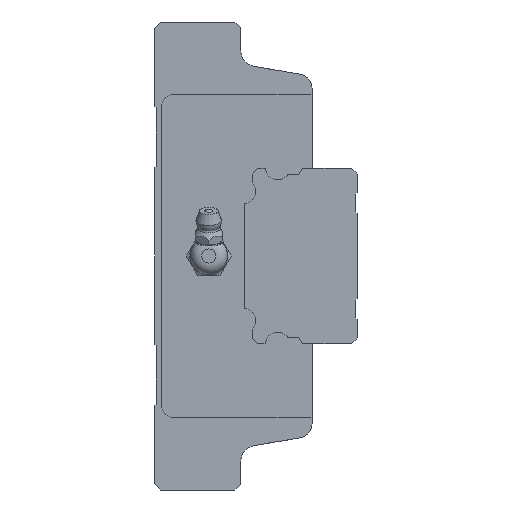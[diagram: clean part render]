
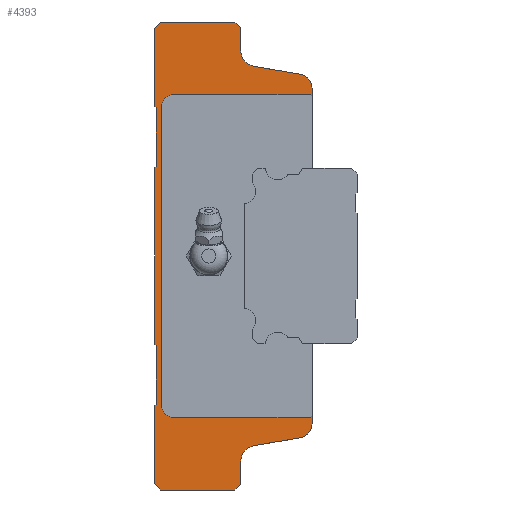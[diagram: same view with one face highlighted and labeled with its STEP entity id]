
A CAD part, left-side view. The second image highlights one B-rep face of the part: STEP entity #4393.
In plain terms, the highlighted planar face has unit normal (-1, 0, 0).
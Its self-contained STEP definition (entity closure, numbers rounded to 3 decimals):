
#198=CIRCLE('',#4711,4.);
#201=CIRCLE('',#4726,4.);
#219=CIRCLE('',#4753,4.);
#220=CIRCLE('',#4758,4.);
#273=CIRCLE('',#4839,3.);
#274=CIRCLE('',#4840,3.);
#1113=ORIENTED_EDGE('',*,*,#2110,.F.);
#1114=ORIENTED_EDGE('',*,*,#1935,.F.);
#1115=ORIENTED_EDGE('',*,*,#1930,.F.);
#1116=ORIENTED_EDGE('',*,*,#2053,.F.);
#1117=ORIENTED_EDGE('',*,*,#1923,.T.);
#1118=ORIENTED_EDGE('',*,*,#1838,.F.);
#1119=ORIENTED_EDGE('',*,*,#1835,.F.);
#1120=ORIENTED_EDGE('',*,*,#2043,.F.);
#1121=ORIENTED_EDGE('',*,*,#2031,.F.);
#1122=ORIENTED_EDGE('',*,*,#2101,.F.);
#1123=ORIENTED_EDGE('',*,*,#2098,.F.);
#1124=ORIENTED_EDGE('',*,*,#2095,.F.);
#1125=ORIENTED_EDGE('',*,*,#2092,.F.);
#1126=ORIENTED_EDGE('',*,*,#2089,.F.);
#1127=ORIENTED_EDGE('',*,*,#2086,.F.);
#1128=ORIENTED_EDGE('',*,*,#2083,.F.);
#1129=ORIENTED_EDGE('',*,*,#2080,.F.);
#1130=ORIENTED_EDGE('',*,*,#2077,.F.);
#1131=ORIENTED_EDGE('',*,*,#2074,.F.);
#1132=ORIENTED_EDGE('',*,*,#2067,.F.);
#1133=ORIENTED_EDGE('',*,*,#1824,.F.);
#1134=ORIENTED_EDGE('',*,*,#1821,.F.);
#1135=ORIENTED_EDGE('',*,*,#1897,.T.);
#1136=ORIENTED_EDGE('',*,*,#1888,.F.);
#1137=ORIENTED_EDGE('',*,*,#1873,.F.);
#1138=ORIENTED_EDGE('',*,*,#1951,.F.);
#1139=ORIENTED_EDGE('',*,*,#2111,.F.);
#1140=ORIENTED_EDGE('',*,*,#2112,.F.);
#1141=ORIENTED_EDGE('',*,*,#2113,.F.);
#1142=ORIENTED_EDGE('',*,*,#2114,.F.);
#1143=ORIENTED_EDGE('',*,*,#2115,.F.);
#1144=ORIENTED_EDGE('',*,*,#2116,.F.);
#1821=EDGE_CURVE('',#2397,#2395,#2822,.T.);
#1824=EDGE_CURVE('',#2395,#2399,#2825,.T.);
#1835=EDGE_CURVE('',#2409,#2407,#2836,.T.);
#1838=EDGE_CURVE('',#2407,#2411,#2839,.T.);
#1873=EDGE_CURVE('',#2440,#2438,#198,.T.);
#1888=EDGE_CURVE('',#2438,#2454,#2860,.T.);
#1897=EDGE_CURVE('',#2397,#2454,#201,.T.);
#1923=EDGE_CURVE('',#2481,#2411,#219,.T.);
#1930=EDGE_CURVE('',#2485,#2483,#220,.T.);
#1935=EDGE_CURVE('',#2483,#2488,#2868,.T.);
#1951=EDGE_CURVE('',#2499,#2440,#2881,.T.);
#2031=EDGE_CURVE('',#2574,#2575,#2918,.T.);
#2043=EDGE_CURVE('',#2575,#2409,#2930,.T.);
#2053=EDGE_CURVE('',#2481,#2485,#2939,.T.);
#2067=EDGE_CURVE('',#2399,#2596,#2952,.T.);
#2074=EDGE_CURVE('',#2596,#2600,#2959,.T.);
#2077=EDGE_CURVE('',#2600,#2602,#2962,.T.);
#2080=EDGE_CURVE('',#2602,#2604,#2965,.T.);
#2083=EDGE_CURVE('',#2604,#2606,#2968,.T.);
#2086=EDGE_CURVE('',#2606,#2608,#2971,.T.);
#2089=EDGE_CURVE('',#2608,#2610,#2974,.T.);
#2092=EDGE_CURVE('',#2610,#2612,#2977,.T.);
#2095=EDGE_CURVE('',#2612,#2614,#2980,.T.);
#2098=EDGE_CURVE('',#2614,#2616,#2983,.T.);
#2101=EDGE_CURVE('',#2616,#2574,#2986,.T.);
#2110=EDGE_CURVE('',#2488,#2624,#2993,.T.);
#2111=EDGE_CURVE('',#2625,#2499,#2994,.T.);
#2112=EDGE_CURVE('',#2626,#2625,#2995,.T.);
#2113=EDGE_CURVE('',#2627,#2626,#273,.F.);
#2114=EDGE_CURVE('',#2628,#2627,#2996,.T.);
#2115=EDGE_CURVE('',#2629,#2628,#274,.F.);
#2116=EDGE_CURVE('',#2624,#2629,#2997,.T.);
#2395=VERTEX_POINT('',#6671);
#2397=VERTEX_POINT('',#6675);
#2399=VERTEX_POINT('',#6680);
#2407=VERTEX_POINT('',#6701);
#2409=VERTEX_POINT('',#6705);
#2411=VERTEX_POINT('',#6710);
#2438=VERTEX_POINT('',#6825);
#2440=VERTEX_POINT('',#6835);
#2454=VERTEX_POINT('',#6897);
#2481=VERTEX_POINT('',#6994);
#2483=VERTEX_POINT('',#7002);
#2485=VERTEX_POINT('',#7012);
#2488=VERTEX_POINT('',#7023);
#2499=VERTEX_POINT('',#7050);
#2574=VERTEX_POINT('',#7209);
#2575=VERTEX_POINT('',#7210);
#2596=VERTEX_POINT('',#7275);
#2600=VERTEX_POINT('',#7287);
#2602=VERTEX_POINT('',#7293);
#2604=VERTEX_POINT('',#7299);
#2606=VERTEX_POINT('',#7305);
#2608=VERTEX_POINT('',#7311);
#2610=VERTEX_POINT('',#7317);
#2612=VERTEX_POINT('',#7323);
#2614=VERTEX_POINT('',#7329);
#2616=VERTEX_POINT('',#7335);
#2624=VERTEX_POINT('',#7358);
#2625=VERTEX_POINT('',#7360);
#2626=VERTEX_POINT('',#7362);
#2627=VERTEX_POINT('',#7364);
#2628=VERTEX_POINT('',#7366);
#2629=VERTEX_POINT('',#7368);
#2822=LINE('',#6676,#3190);
#2825=LINE('',#6682,#3193);
#2836=LINE('',#6706,#3204);
#2839=LINE('',#6712,#3207);
#2860=LINE('',#6899,#3228);
#2868=LINE('',#7022,#3236);
#2881=LINE('',#7051,#3249);
#2918=LINE('',#7208,#3286);
#2930=LINE('',#7231,#3298);
#2939=LINE('',#7248,#3307);
#2952=LINE('',#7274,#3320);
#2959=LINE('',#7286,#3327);
#2962=LINE('',#7292,#3330);
#2965=LINE('',#7298,#3333);
#2968=LINE('',#7304,#3336);
#2971=LINE('',#7310,#3339);
#2974=LINE('',#7316,#3342);
#2977=LINE('',#7322,#3345);
#2980=LINE('',#7328,#3348);
#2983=LINE('',#7334,#3351);
#2986=LINE('',#7340,#3354);
#2993=LINE('',#7357,#3361);
#2994=LINE('',#7359,#3362);
#2995=LINE('',#7361,#3363);
#2996=LINE('',#7365,#3364);
#2997=LINE('',#7369,#3365);
#3190=VECTOR('',#5391,1000.);
#3193=VECTOR('',#5396,1000.);
#3204=VECTOR('',#5413,1000.);
#3207=VECTOR('',#5418,1000.);
#3228=VECTOR('',#5491,1000.);
#3236=VECTOR('',#5593,1000.);
#3249=VECTOR('',#5614,1000.);
#3286=VECTOR('',#5743,1000.);
#3298=VECTOR('',#5757,1000.);
#3307=VECTOR('',#5774,1000.);
#3320=VECTOR('',#5797,1000.);
#3327=VECTOR('',#5806,1000.);
#3330=VECTOR('',#5811,1000.);
#3333=VECTOR('',#5816,1000.);
#3336=VECTOR('',#5821,1000.);
#3339=VECTOR('',#5826,1000.);
#3342=VECTOR('',#5831,1000.);
#3345=VECTOR('',#5836,1000.);
#3348=VECTOR('',#5841,1000.);
#3351=VECTOR('',#5846,1000.);
#3354=VECTOR('',#5851,1000.);
#3361=VECTOR('',#5866,1000.);
#3362=VECTOR('',#5867,1000.);
#3363=VECTOR('',#5868,1000.);
#3364=VECTOR('',#5871,1000.);
#3365=VECTOR('',#5874,1000.);
#3614=EDGE_LOOP('',(#1113,#1114,#1115,#1116,#1117,#1118,#1119,#1120,#1121,
#1122,#1123,#1124,#1125,#1126,#1127,#1128,#1129,#1130,#1131,#1132,#1133,
#1134,#1135,#1136,#1137,#1138,#1139,#1140,#1141,#1142,#1143,#1144));
#3955=FACE_BOUND('',#3614,.T.);
#4202=PLANE('',#4838);
#4393=ADVANCED_FACE('',(#3955),#4202,.F.);
#4711=AXIS2_PLACEMENT_3D('',#6836,#5470,#5471);
#4726=AXIS2_PLACEMENT_3D('',#6919,#5510,#5511);
#4753=AXIS2_PLACEMENT_3D('',#6993,#5566,#5567);
#4758=AXIS2_PLACEMENT_3D('',#7013,#5579,#5580);
#4838=AXIS2_PLACEMENT_3D('',#7356,#5864,#5865);
#4839=AXIS2_PLACEMENT_3D('',#7363,#5869,#5870);
#4840=AXIS2_PLACEMENT_3D('',#7367,#5872,#5873);
#5391=DIRECTION('',(0.,0.,-1.));
#5396=DIRECTION('',(0.,0.707,-0.707));
#5413=DIRECTION('',(0.,-0.707,-0.707));
#5418=DIRECTION('',(0.,0.,-1.));
#5470=DIRECTION('',(1.,0.,0.));
#5471=DIRECTION('',(0.,0.,-1.));
#5491=DIRECTION('',(0.,0.985,-0.17));
#5510=DIRECTION('',(1.,0.,0.));
#5511=DIRECTION('',(0.,0.,-1.));
#5566=DIRECTION('',(1.,0.,0.));
#5567=DIRECTION('',(0.,0.,-1.));
#5579=DIRECTION('',(1.,0.,0.));
#5580=DIRECTION('',(0.,0.,-1.));
#5593=DIRECTION('',(0.,0.,-1.));
#5614=DIRECTION('',(0.,0.,-1.));
#5743=DIRECTION('',(0.,-0.707,0.707));
#5757=DIRECTION('',(0.,-1.,0.));
#5774=DIRECTION('',(0.,-0.985,-0.17));
#5797=DIRECTION('',(0.,1.,0.));
#5806=DIRECTION('',(0.,0.707,0.707));
#5811=DIRECTION('',(0.,0.,1.));
#5816=DIRECTION('',(0.,-0.717,0.697));
#5821=DIRECTION('',(0.,0.,1.));
#5826=DIRECTION('',(0.,0.717,0.697));
#5831=DIRECTION('',(0.,0.,1.));
#5836=DIRECTION('',(0.,-0.717,0.697));
#5841=DIRECTION('',(0.,0.,1.));
#5846=DIRECTION('',(0.,0.717,0.697));
#5851=DIRECTION('',(0.,0.,1.));
#5864=DIRECTION('',(1.,0.,0.));
#5865=DIRECTION('',(0.,0.,-1.));
#5866=DIRECTION('',(0.,0.707,0.707));
#5867=DIRECTION('',(0.,-0.707,0.707));
#5868=DIRECTION('',(0.,-1.,0.));
#5869=DIRECTION('',(1.,0.,0.));
#5870=DIRECTION('',(0.,0.,-1.));
#5871=DIRECTION('',(0.,0.,-1.));
#5872=DIRECTION('',(1.,0.,0.));
#5873=DIRECTION('',(0.,0.,-1.));
#5874=DIRECTION('',(0.,1.,0.));
#6671=CARTESIAN_POINT('',(-68.9,18.3,-58.5));
#6675=CARTESIAN_POINT('',(-68.9,18.3,-52.6));
#6676=CARTESIAN_POINT('',(-68.9,18.3,-52.6));
#6680=CARTESIAN_POINT('',(-68.9,19.8,-60.));
#6682=CARTESIAN_POINT('',(-68.9,18.3,-58.5));
#6701=CARTESIAN_POINT('',(-68.9,18.3,58.5));
#6705=CARTESIAN_POINT('',(-68.9,19.8,60.));
#6706=CARTESIAN_POINT('',(-68.9,19.8,60.));
#6710=CARTESIAN_POINT('',(-68.9,18.3,52.6));
#6712=CARTESIAN_POINT('',(-68.9,18.3,58.5));
#6825=CARTESIAN_POINT('',(-68.9,3.318,-46.641));
#6835=CARTESIAN_POINT('',(-68.9,0.,-42.7));
#6836=CARTESIAN_POINT('',(-68.9,4.,-42.7));
#6897=CARTESIAN_POINT('',(-68.9,14.982,-48.659));
#6899=CARTESIAN_POINT('',(-68.9,3.318,-46.641));
#6919=CARTESIAN_POINT('',(-68.9,14.3,-52.6));
#6993=CARTESIAN_POINT('',(-68.9,14.3,52.6));
#6994=CARTESIAN_POINT('',(-68.9,14.982,48.659));
#7002=CARTESIAN_POINT('',(-68.9,0.,42.7));
#7012=CARTESIAN_POINT('',(-68.9,3.318,46.641));
#7013=CARTESIAN_POINT('',(-68.9,4.,42.7));
#7022=CARTESIAN_POINT('',(-68.9,0.,42.7));
#7023=CARTESIAN_POINT('',(-68.9,0.,40.9));
#7050=CARTESIAN_POINT('',(-68.9,0.,-40.9));
#7051=CARTESIAN_POINT('',(-68.9,0.,42.7));
#7208=CARTESIAN_POINT('',(-68.9,40.4,58.4));
#7209=CARTESIAN_POINT('',(-68.9,40.4,58.4));
#7210=CARTESIAN_POINT('',(-68.9,38.8,60.));
#7231=CARTESIAN_POINT('',(-68.9,38.8,60.));
#7248=CARTESIAN_POINT('',(-68.9,14.982,48.659));
#7274=CARTESIAN_POINT('',(-68.9,19.8,-60.));
#7275=CARTESIAN_POINT('',(-68.9,38.8,-60.));
#7286=CARTESIAN_POINT('',(-68.9,38.8,-60.));
#7287=CARTESIAN_POINT('',(-68.9,40.4,-58.4));
#7292=CARTESIAN_POINT('',(-68.9,40.4,-58.4));
#7293=CARTESIAN_POINT('',(-68.9,40.4,-38.4));
#7298=CARTESIAN_POINT('',(-68.9,40.4,-38.4));
#7299=CARTESIAN_POINT('',(-68.9,40.,-38.011));
#7304=CARTESIAN_POINT('',(-68.9,40.,-38.011));
#7305=CARTESIAN_POINT('',(-68.9,40.,-22.989));
#7310=CARTESIAN_POINT('',(-68.9,40.,-22.989));
#7311=CARTESIAN_POINT('',(-68.9,40.4,-22.6));
#7316=CARTESIAN_POINT('',(-68.9,40.4,-22.6));
#7317=CARTESIAN_POINT('',(-68.9,40.4,22.6));
#7322=CARTESIAN_POINT('',(-68.9,40.4,22.6));
#7323=CARTESIAN_POINT('',(-68.9,40.,22.989));
#7328=CARTESIAN_POINT('',(-68.9,40.,22.989));
#7329=CARTESIAN_POINT('',(-68.9,40.,38.011));
#7334=CARTESIAN_POINT('',(-68.9,40.,38.011));
#7335=CARTESIAN_POINT('',(-68.9,40.4,38.4));
#7340=CARTESIAN_POINT('',(-68.9,40.4,38.4));
#7356=CARTESIAN_POINT('',(-68.9,14.3,52.6));
#7357=CARTESIAN_POINT('',(-68.9,13.,53.9));
#7358=CARTESIAN_POINT('',(-68.9,0.5,41.4));
#7359=CARTESIAN_POINT('',(-68.9,-39.6,-1.3));
#7360=CARTESIAN_POINT('',(-68.9,0.5,-41.4));
#7361=CARTESIAN_POINT('',(-68.9,14.3,-41.4));
#7362=CARTESIAN_POINT('',(-68.9,35.6,-41.4));
#7363=CARTESIAN_POINT('',(-68.9,35.6,-38.4));
#7364=CARTESIAN_POINT('',(-68.9,38.6,-38.4));
#7365=CARTESIAN_POINT('',(-68.9,38.6,52.6));
#7366=CARTESIAN_POINT('',(-68.9,38.6,38.4));
#7367=CARTESIAN_POINT('',(-68.9,35.6,38.4));
#7368=CARTESIAN_POINT('',(-68.9,35.6,41.4));
#7369=CARTESIAN_POINT('',(-68.9,14.3,41.4));
